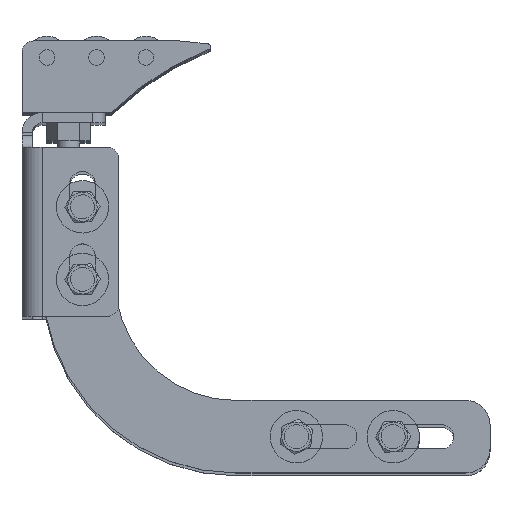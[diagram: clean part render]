
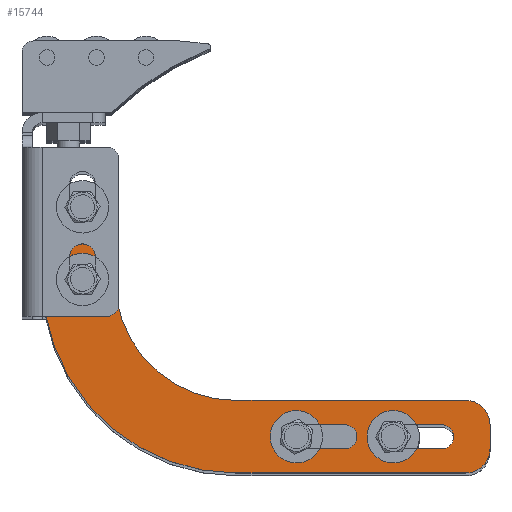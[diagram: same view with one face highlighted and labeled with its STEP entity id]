
A CAD part, top view. The second image highlights one B-rep face of the part: STEP entity #15744.
In plain terms, the highlighted planar face has unit normal (0, 0, 1) as drawn and (0, 0, -1) by its records, which use the part's own axes.
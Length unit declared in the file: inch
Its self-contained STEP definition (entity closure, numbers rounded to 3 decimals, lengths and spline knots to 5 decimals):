
#15197=DIRECTION('',(0.,-1.,0.));
#15198=VECTOR('',#15197,0.75);
#15199=CARTESIAN_POINT('',(0.,2.75,-0.25));
#15200=LINE('',#15199,#15198);
#15201=CARTESIAN_POINT('',(-0.25,2.75,-0.25));
#15202=DIRECTION('',(0.,0.,-1.));
#15203=DIRECTION('',(0.,1.,0.));
#15204=AXIS2_PLACEMENT_3D('',#15201,#15202,#15203);
#15206=DIRECTION('',(1.,0.,0.));
#15207=VECTOR('',#15206,0.25);
#15208=CARTESIAN_POINT('',(-0.5,3.,-0.25));
#15209=LINE('',#15208,#15207);
#15210=CARTESIAN_POINT('',(-0.5,2.75,-0.25));
#15211=DIRECTION('',(0.,0.,-1.));
#15212=DIRECTION('',(-1.,0.,0.));
#15213=AXIS2_PLACEMENT_3D('',#15210,#15211,#15212);
#15215=DIRECTION('',(0.,1.,0.));
#15216=VECTOR('',#15215,0.75);
#15217=CARTESIAN_POINT('',(-0.75,2.,-0.25));
#15218=LINE('',#15217,#15216);
#15219=CARTESIAN_POINT('',(-2.,2.,-0.25));
#15220=DIRECTION('',(0.,0.,1.));
#15221=DIRECTION('',(0.,-1.,0.));
#15222=AXIS2_PLACEMENT_3D('',#15219,#15220,#15221);
#15224=DIRECTION('',(1.,0.,0.));
#15225=VECTOR('',#15224,2.375);
#15226=CARTESIAN_POINT('',(-4.375,0.75,-0.25));
#15227=LINE('',#15226,#15225);
#15228=CARTESIAN_POINT('',(-4.375,0.5,-0.25));
#15229=DIRECTION('',(0.,0.,-1.));
#15230=DIRECTION('',(-1.,0.,0.));
#15231=AXIS2_PLACEMENT_3D('',#15228,#15229,#15230);
#15233=DIRECTION('',(0.,1.,0.));
#15234=VECTOR('',#15233,0.25);
#15235=CARTESIAN_POINT('',(-4.625,0.25,-0.25));
#15236=LINE('',#15235,#15234);
#15237=CARTESIAN_POINT('',(-4.375,0.25,-0.25));
#15238=DIRECTION('',(0.,0.,-1.));
#15239=DIRECTION('',(0.,-1.,0.));
#15240=AXIS2_PLACEMENT_3D('',#15237,#15238,#15239);
#15242=DIRECTION('',(-1.,0.,0.));
#15243=VECTOR('',#15242,2.375);
#15244=CARTESIAN_POINT('',(-2.,0.,-0.25));
#15245=LINE('',#15244,#15243);
#15246=CARTESIAN_POINT('',(-2.,2.,-0.25));
#15247=DIRECTION('',(0.,0.,-1.));
#15248=DIRECTION('',(1.,0.,0.));
#15249=AXIS2_PLACEMENT_3D('',#15246,#15247,#15248);
#15251=CARTESIAN_POINT('',(-0.4145,2.,-0.25));
#15252=DIRECTION('',(0.,0.,1.));
#15253=DIRECTION('',(1.,0.,0.));
#15254=AXIS2_PLACEMENT_3D('',#15251,#15252,#15253);
#15256=CARTESIAN_POINT('',(-0.4145,2.,-0.25));
#15257=DIRECTION('',(0.,0.,1.));
#15258=DIRECTION('',(-1.,0.,0.));
#15259=AXIS2_PLACEMENT_3D('',#15256,#15257,#15258);
#15261=CARTESIAN_POINT('',(-0.4145,2.75,-0.25));
#15262=DIRECTION('',(0.,0.,1.));
#15263=DIRECTION('',(1.,0.,0.));
#15264=AXIS2_PLACEMENT_3D('',#15261,#15262,#15263);
#15266=CARTESIAN_POINT('',(-0.4145,2.75,-0.25));
#15267=DIRECTION('',(0.,0.,1.));
#15268=DIRECTION('',(-1.,0.,0.));
#15269=AXIS2_PLACEMENT_3D('',#15266,#15267,#15268);
#15271=CARTESIAN_POINT('',(-2.625,0.375,-0.25));
#15272=DIRECTION('',(0.,0.,1.));
#15273=DIRECTION('',(1.,0.,0.));
#15274=AXIS2_PLACEMENT_3D('',#15271,#15272,#15273);
#15276=CARTESIAN_POINT('',(-2.625,0.375,-0.25));
#15277=DIRECTION('',(0.,0.,1.));
#15278=DIRECTION('',(0.,-1.,0.));
#15279=AXIS2_PLACEMENT_3D('',#15276,#15277,#15278);
#15281=CARTESIAN_POINT('',(-3.125,0.375,-0.25));
#15282=DIRECTION('',(0.,0.,1.));
#15283=DIRECTION('',(-1.,0.,0.));
#15284=AXIS2_PLACEMENT_3D('',#15281,#15282,#15283);
#15286=CARTESIAN_POINT('',(-3.125,0.375,-0.25));
#15287=DIRECTION('',(0.,0.,1.));
#15288=DIRECTION('',(0.,1.,0.));
#15289=AXIS2_PLACEMENT_3D('',#15286,#15287,#15288);
#15291=CARTESIAN_POINT('',(-3.625,0.375,-0.25));
#15292=DIRECTION('',(0.,0.,1.));
#15293=DIRECTION('',(1.,0.,0.));
#15294=AXIS2_PLACEMENT_3D('',#15291,#15292,#15293);
#15296=CARTESIAN_POINT('',(-3.625,0.375,-0.25));
#15297=DIRECTION('',(0.,0.,1.));
#15298=DIRECTION('',(0.,-1.,0.));
#15299=AXIS2_PLACEMENT_3D('',#15296,#15297,#15298);
#15301=CARTESIAN_POINT('',(-4.125,0.375,-0.25));
#15302=DIRECTION('',(0.,0.,1.));
#15303=DIRECTION('',(-1.,0.,0.));
#15304=AXIS2_PLACEMENT_3D('',#15301,#15302,#15303);
#15306=CARTESIAN_POINT('',(-4.125,0.375,-0.25));
#15307=DIRECTION('',(0.,0.,1.));
#15308=DIRECTION('',(0.,1.,0.));
#15309=AXIS2_PLACEMENT_3D('',#15306,#15307,#15308);
#15513=DIRECTION('',(1.,0.,0.));
#15514=VECTOR('',#15513,0.5);
#15515=CARTESIAN_POINT('',(-3.125,0.5,-0.25));
#15516=LINE('',#15515,#15514);
#15529=DIRECTION('',(-1.,0.,0.));
#15530=VECTOR('',#15529,0.5);
#15531=CARTESIAN_POINT('',(-2.625,0.25,-0.25));
#15532=LINE('',#15531,#15530);
#15541=DIRECTION('',(1.,0.,0.));
#15542=VECTOR('',#15541,0.5);
#15543=CARTESIAN_POINT('',(-4.125,0.5,-0.25));
#15544=LINE('',#15543,#15542);
#15557=DIRECTION('',(-1.,0.,0.));
#15558=VECTOR('',#15557,0.5);
#15559=CARTESIAN_POINT('',(-3.625,0.25,-0.25));
#15560=LINE('',#15559,#15558);
#15562=CARTESIAN_POINT('',(-0.51293,2.75,-0.25));
#15564=VERTEX_POINT('',#15562);
#15565=CARTESIAN_POINT('',(-3.125,0.5,-0.25));
#15567=VERTEX_POINT('',#15565);
#15574=CARTESIAN_POINT('',(-2.,0.,-0.25));
#15576=VERTEX_POINT('',#15574);
#15577=CARTESIAN_POINT('',(-4.125,0.5,-0.25));
#15578=CARTESIAN_POINT('',(-4.25,0.375,-0.25));
#15579=VERTEX_POINT('',#15577);
#15580=VERTEX_POINT('',#15578);
#15581=CARTESIAN_POINT('',(-4.125,0.25,-0.25));
#15582=VERTEX_POINT('',#15581);
#15590=CARTESIAN_POINT('',(-3.5,0.375,-0.25));
#15592=VERTEX_POINT('',#15590);
#15597=CARTESIAN_POINT('',(-0.5,3.,-0.25));
#15598=CARTESIAN_POINT('',(-0.25,3.,-0.25));
#15599=VERTEX_POINT('',#15597);
#15600=VERTEX_POINT('',#15598);
#15601=CARTESIAN_POINT('',(-2.625,0.25,-0.25));
#15603=VERTEX_POINT('',#15601);
#15605=CARTESIAN_POINT('',(0.,2.75,-0.25));
#15606=CARTESIAN_POINT('',(0.,2.,-0.25));
#15607=VERTEX_POINT('',#15605);
#15608=VERTEX_POINT('',#15606);
#15609=CARTESIAN_POINT('',(-4.375,0.,-0.25));
#15610=CARTESIAN_POINT('',(-4.625,0.25,-0.25));
#15611=VERTEX_POINT('',#15609);
#15612=VERTEX_POINT('',#15610);
#15616=CARTESIAN_POINT('',(-2.625,0.5,-0.25));
#15618=VERTEX_POINT('',#15616);
#15619=CARTESIAN_POINT('',(-4.375,0.75,-0.25));
#15620=CARTESIAN_POINT('',(-2.,0.75,-0.25));
#15621=VERTEX_POINT('',#15619);
#15622=VERTEX_POINT('',#15620);
#15627=CARTESIAN_POINT('',(-0.51293,2.,-0.25));
#15628=CARTESIAN_POINT('',(-0.31607,2.,-0.25));
#15629=VERTEX_POINT('',#15627);
#15630=VERTEX_POINT('',#15628);
#15631=CARTESIAN_POINT('',(-3.625,0.5,-0.25));
#15632=VERTEX_POINT('',#15631);
#15633=CARTESIAN_POINT('',(-2.5,0.375,-0.25));
#15634=VERTEX_POINT('',#15633);
#15637=CARTESIAN_POINT('',(-3.625,0.25,-0.25));
#15638=VERTEX_POINT('',#15637);
#15645=CARTESIAN_POINT('',(-3.125,0.25,-0.25));
#15646=VERTEX_POINT('',#15645);
#15651=CARTESIAN_POINT('',(-4.625,0.5,-0.25));
#15652=VERTEX_POINT('',#15651);
#15657=CARTESIAN_POINT('',(-0.31607,2.75,-0.25));
#15658=VERTEX_POINT('',#15657);
#15659=CARTESIAN_POINT('',(-0.75,2.,-0.25));
#15660=VERTEX_POINT('',#15659);
#15663=CARTESIAN_POINT('',(-0.75,2.75,-0.25));
#15664=VERTEX_POINT('',#15663);
#15665=CARTESIAN_POINT('',(-3.25,0.375,-0.25));
#15666=VERTEX_POINT('',#15665);
#15673=CARTESIAN_POINT('',(0.,0.,-0.25));
#15674=DIRECTION('',(0.,0.,1.));
#15675=DIRECTION('',(1.,0.,0.));
#15676=AXIS2_PLACEMENT_3D('',#15673,#15674,#15675);
#15677=PLANE('',#15676);
#15679=ORIENTED_EDGE('',*,*,#15678,.F.);
#15681=ORIENTED_EDGE('',*,*,#15680,.F.);
#15683=ORIENTED_EDGE('',*,*,#15682,.F.);
#15685=ORIENTED_EDGE('',*,*,#15684,.F.);
#15687=ORIENTED_EDGE('',*,*,#15686,.F.);
#15689=ORIENTED_EDGE('',*,*,#15688,.F.);
#15691=ORIENTED_EDGE('',*,*,#15690,.F.);
#15693=ORIENTED_EDGE('',*,*,#15692,.F.);
#15695=ORIENTED_EDGE('',*,*,#15694,.F.);
#15697=ORIENTED_EDGE('',*,*,#15696,.F.);
#15699=ORIENTED_EDGE('',*,*,#15698,.F.);
#15701=ORIENTED_EDGE('',*,*,#15700,.F.);
#15702=EDGE_LOOP('',(#15679,#15681,#15683,#15685,#15687,#15689,#15691,#15693,
#15695,#15697,#15699,#15701));
#15703=FACE_OUTER_BOUND('',#15702,.F.);
#15705=ORIENTED_EDGE('',*,*,#15704,.F.);
#15707=ORIENTED_EDGE('',*,*,#15706,.F.);
#15708=EDGE_LOOP('',(#15705,#15707));
#15709=FACE_BOUND('',#15708,.F.);
#15711=ORIENTED_EDGE('',*,*,#15710,.F.);
#15713=ORIENTED_EDGE('',*,*,#15712,.F.);
#15714=EDGE_LOOP('',(#15711,#15713));
#15715=FACE_BOUND('',#15714,.F.);
#15717=ORIENTED_EDGE('',*,*,#15716,.T.);
#15719=ORIENTED_EDGE('',*,*,#15718,.F.);
#15721=ORIENTED_EDGE('',*,*,#15720,.F.);
#15723=ORIENTED_EDGE('',*,*,#15722,.T.);
#15725=ORIENTED_EDGE('',*,*,#15724,.F.);
#15727=ORIENTED_EDGE('',*,*,#15726,.F.);
#15728=EDGE_LOOP('',(#15717,#15719,#15721,#15723,#15725,#15727));
#15729=FACE_BOUND('',#15728,.F.);
#15731=ORIENTED_EDGE('',*,*,#15730,.T.);
#15733=ORIENTED_EDGE('',*,*,#15732,.F.);
#15735=ORIENTED_EDGE('',*,*,#15734,.F.);
#15737=ORIENTED_EDGE('',*,*,#15736,.T.);
#15739=ORIENTED_EDGE('',*,*,#15738,.F.);
#15741=ORIENTED_EDGE('',*,*,#15740,.F.);
#15742=EDGE_LOOP('',(#15731,#15733,#15735,#15737,#15739,#15741));
#15743=FACE_BOUND('',#15742,.F.);
#15205=CIRCLE('',#15204,0.25);
#15214=CIRCLE('',#15213,0.25);
#15223=CIRCLE('',#15222,1.25);
#15232=CIRCLE('',#15231,0.25);
#15241=CIRCLE('',#15240,0.25);
#15250=CIRCLE('',#15249,2.);
#15255=CIRCLE('',#15254,0.09843);
#15260=CIRCLE('',#15259,0.09843);
#15265=CIRCLE('',#15264,0.09843);
#15270=CIRCLE('',#15269,0.09843);
#15275=CIRCLE('',#15274,0.125);
#15280=CIRCLE('',#15279,0.125);
#15285=CIRCLE('',#15284,0.125);
#15290=CIRCLE('',#15289,0.125);
#15295=CIRCLE('',#15294,0.125);
#15300=CIRCLE('',#15299,0.125);
#15305=CIRCLE('',#15304,0.125);
#15310=CIRCLE('',#15309,0.125);
#15678=EDGE_CURVE('',#15607,#15608,#15200,.T.);
#15680=EDGE_CURVE('',#15600,#15607,#15205,.T.);
#15682=EDGE_CURVE('',#15599,#15600,#15209,.T.);
#15684=EDGE_CURVE('',#15664,#15599,#15214,.T.);
#15686=EDGE_CURVE('',#15660,#15664,#15218,.T.);
#15688=EDGE_CURVE('',#15622,#15660,#15223,.T.);
#15690=EDGE_CURVE('',#15621,#15622,#15227,.T.);
#15692=EDGE_CURVE('',#15652,#15621,#15232,.T.);
#15694=EDGE_CURVE('',#15612,#15652,#15236,.T.);
#15696=EDGE_CURVE('',#15611,#15612,#15241,.T.);
#15698=EDGE_CURVE('',#15576,#15611,#15245,.T.);
#15700=EDGE_CURVE('',#15608,#15576,#15250,.T.);
#15704=EDGE_CURVE('',#15630,#15629,#15255,.T.);
#15706=EDGE_CURVE('',#15629,#15630,#15260,.T.);
#15710=EDGE_CURVE('',#15658,#15564,#15265,.T.);
#15712=EDGE_CURVE('',#15564,#15658,#15270,.T.);
#15716=EDGE_CURVE('',#15567,#15618,#15516,.T.);
#15718=EDGE_CURVE('',#15634,#15618,#15275,.T.);
#15720=EDGE_CURVE('',#15603,#15634,#15280,.T.);
#15722=EDGE_CURVE('',#15603,#15646,#15532,.T.);
#15724=EDGE_CURVE('',#15666,#15646,#15285,.T.);
#15726=EDGE_CURVE('',#15567,#15666,#15290,.T.);
#15730=EDGE_CURVE('',#15579,#15632,#15544,.T.);
#15732=EDGE_CURVE('',#15592,#15632,#15295,.T.);
#15734=EDGE_CURVE('',#15638,#15592,#15300,.T.);
#15736=EDGE_CURVE('',#15638,#15582,#15560,.T.);
#15738=EDGE_CURVE('',#15580,#15582,#15305,.T.);
#15740=EDGE_CURVE('',#15579,#15580,#15310,.T.);
#15744=ADVANCED_FACE('',(#15703,#15709,#15715,#15729,#15743),#15677,.F.);
